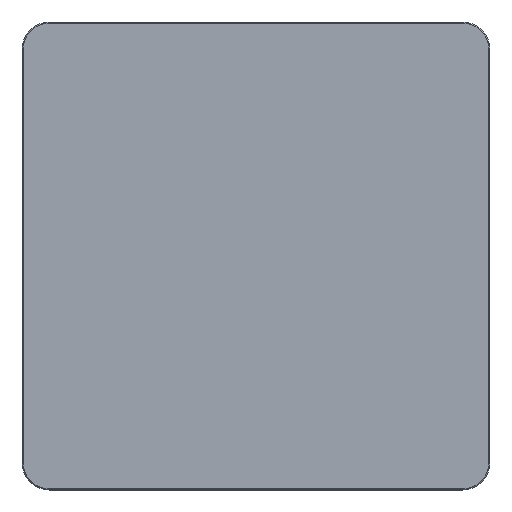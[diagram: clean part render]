
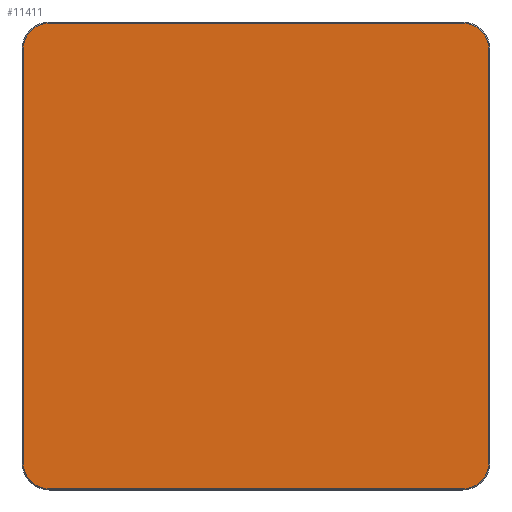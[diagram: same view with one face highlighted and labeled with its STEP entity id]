
A CAD part, top view. The second image highlights one B-rep face of the part: STEP entity #11411.
In plain terms, the highlighted planar face has unit normal (0, 0, 1).
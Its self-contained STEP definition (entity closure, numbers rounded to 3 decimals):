
#11336=CARTESIAN_POINT('',(0.,0.,20.));
#11337=DIRECTION('',(1.,0.,0.));
#11338=DIRECTION('',(0.,0.,1.));
#11339=AXIS2_PLACEMENT_3D('',#11336,#11338,#11337);
#11340=PLANE('',#11339);
#11341=CARTESIAN_POINT('',(-265.,-298.5,20.));
#11342=VERTEX_POINT('',#11341);
#11343=CARTESIAN_POINT('',(265.,-298.5,20.));
#11344=VERTEX_POINT('',#11343);
#11345=CARTESIAN_POINT('',(-265.,-298.5,20.));
#11346=DIRECTION('',(1.,0.,0.));
#11347=VECTOR('',#11346,530.);
#11348=LINE('',#11345,#11347);
#11349=EDGE_CURVE('',#11342,#11344,#11348,.T.);
#11350=ORIENTED_EDGE('E105',*,*,#11349,.T.);
#11351=CARTESIAN_POINT('',(298.5,-265.,20.));
#11352=VERTEX_POINT('',#11351);
#11353=CARTESIAN_POINT('',(265.,-265.,20.));
#11354=DIRECTION('',(0.,-1.,0.));
#11355=DIRECTION('',(0.,0.,1.));
#11356=AXIS2_PLACEMENT_3D('',#11353,#11355,#11354);
#11357=CIRCLE('',#11356,33.5);
#11358=EDGE_CURVE('',#11344,#11352,#11357,.T.);
#11359=ORIENTED_EDGE('E107',*,*,#11358,.T.);
#11360=CARTESIAN_POINT('',(298.5,265.,20.));
#11361=VERTEX_POINT('',#11360);
#11362=CARTESIAN_POINT('',(298.5,-265.,20.));
#11363=DIRECTION('',(0.,1.,0.));
#11364=VECTOR('',#11363,530.);
#11365=LINE('',#11362,#11364);
#11366=EDGE_CURVE('',#11352,#11361,#11365,.T.);
#11367=ORIENTED_EDGE('E109',*,*,#11366,.T.);
#11368=CARTESIAN_POINT('',(265.,298.5,20.));
#11369=VERTEX_POINT('',#11368);
#11370=CARTESIAN_POINT('',(265.,265.,20.));
#11371=DIRECTION('',(1.,0.,0.));
#11372=DIRECTION('',(0.,0.,1.));
#11373=AXIS2_PLACEMENT_3D('',#11370,#11372,#11371);
#11374=CIRCLE('',#11373,33.5);
#11375=EDGE_CURVE('',#11361,#11369,#11374,.T.);
#11376=ORIENTED_EDGE('E111',*,*,#11375,.T.);
#11377=CARTESIAN_POINT('',(-265.,298.5,20.));
#11378=VERTEX_POINT('',#11377);
#11379=CARTESIAN_POINT('',(265.,298.5,20.));
#11380=DIRECTION('',(-1.,0.,0.));
#11381=VECTOR('',#11380,530.);
#11382=LINE('',#11379,#11381);
#11383=EDGE_CURVE('',#11369,#11378,#11382,.T.);
#11384=ORIENTED_EDGE('E113',*,*,#11383,.T.);
#11385=CARTESIAN_POINT('',(-298.5,265.,20.));
#11386=VERTEX_POINT('',#11385);
#11387=CARTESIAN_POINT('',(-265.,265.,20.));
#11388=DIRECTION('',(0.,1.,0.));
#11389=DIRECTION('',(0.,0.,1.));
#11390=AXIS2_PLACEMENT_3D('',#11387,#11389,#11388);
#11391=CIRCLE('',#11390,33.5);
#11392=EDGE_CURVE('',#11378,#11386,#11391,.T.);
#11393=ORIENTED_EDGE('E115',*,*,#11392,.T.);
#11394=CARTESIAN_POINT('',(-298.5,-265.,20.));
#11395=VERTEX_POINT('',#11394);
#11396=CARTESIAN_POINT('',(-298.5,265.,20.));
#11397=DIRECTION('',(0.,-1.,0.));
#11398=VECTOR('',#11397,530.);
#11399=LINE('',#11396,#11398);
#11400=EDGE_CURVE('',#11386,#11395,#11399,.T.);
#11401=ORIENTED_EDGE('E117',*,*,#11400,.T.);
#11402=CARTESIAN_POINT('',(-265.,-265.,20.));
#11403=DIRECTION('',(-1.,0.,0.));
#11404=DIRECTION('',(0.,0.,1.));
#11405=AXIS2_PLACEMENT_3D('',#11402,#11404,#11403);
#11406=CIRCLE('',#11405,33.5);
#11407=EDGE_CURVE('',#11395,#11342,#11406,.T.);
#11408=ORIENTED_EDGE('E119',*,*,#11407,.T.);
#11409=EDGE_LOOP('',(#11350,#11359,#11367,#11376,#11384,#11393,#11401,#11408));
#11410=FACE_OUTER_BOUND('',#11409,.T.);
#11411=ADVANCED_FACE('F2',(#11410),#11340,.T.);
